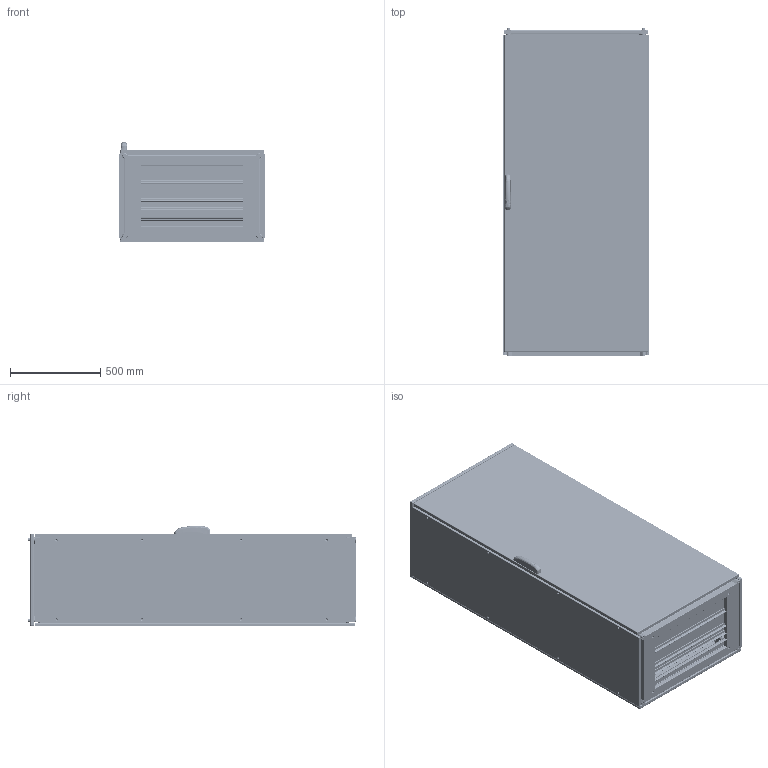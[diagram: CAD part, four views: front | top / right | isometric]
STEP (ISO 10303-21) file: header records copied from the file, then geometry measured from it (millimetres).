
FILE_DESCRIPTION (( 'STEP AP203' ), '1' );
FILE_NAME ('ENUX-081805PRXH.STEP', '2025-06-16T13:40:58', ( '' ), ( '' ), 'SwSTEP 2.0', 'SolidWorks 2022', '' );
FILE_SCHEMA (( 'CONFIG_CONTROL_DESIGN' ));
Length unit declared in the file: millimetre
Products named in the file (13): AR_ENUX_Inox_Porta_singola_2.0_0800x1800_ANT; AR_ENUX_Inox_Vite_tetto_inox; AR_ENUX_Inox_Tetto_0800x0500; AR_ENUX_Inox_Rosetta_13x24x2.5_inox; AR_ENUX_Inox_Fianco_0500x1800_SX; ENUX-081805PRXH; AR_ENUX_Inox_montaggio_porta_singlola_2.0_0800x1800_ANT_DX; AR_ENUX_Inox_Fianco_0500x1800_DX; AR_ENUX_Inox_Struttura_0800x1800x0500; AR_ENUX_Inox_Retro_singolo_0800x1800; AR_ENUX_Inox_Tegolino_0800x0050; AR_ENUX_nuova_maniglia_mesan; AR_ENUX_Inox_Tegolino_0800x0100
Assembly tree (20 placements, depth 3):
  ENUX-081805PRXH
    AR_ENUX_Inox_Struttura_0800x1800x0500
    AR_ENUX_Inox_Retro_singolo_0800x1800
    AR_ENUX_Inox_montaggio_porta_singlola_2.0_0800x1800_ANT_DX
      AR_ENUX_Inox_Porta_singola_2.0_0800x1800_ANT
      AR_ENUX_nuova_maniglia_mesan
    AR_ENUX_Inox_Fianco_0500x1800_SX
    AR_ENUX_Inox_Fianco_0500x1800_DX
    AR_ENUX_Inox_Tetto_0800x0500
    AR_ENUX_Inox_Vite_tetto_inox  x4
    AR_ENUX_Inox_Rosetta_13x24x2.5_inox  x4
    AR_ENUX_Inox_Tegolino_0800x0100  x2
    AR_ENUX_Inox_Tegolino_0800x0050  x2
Bounding box: 812 x 1823 x 557 mm (x, y, z)
Volume: 11742224.9 mm3; surface area: 17085145.3 mm2
Topology: 19 solids, 19 shells, 8445 faces, 23841 edges, 15328 vertices
Faces by surface type: plane 4501, cylinder 3024, bspline 365, torus 275, cone 212, sphere 68
Entity records: 311932 total; most frequent: CARTESIAN_POINT 87803, ORIENTED_EDGE 46452, DIRECTION 44362, EDGE_CURVE 23226, LINE 15816, VECTOR 15816, VERTEX_POINT 15060, AXIS2_PLACEMENT_3D 14273
